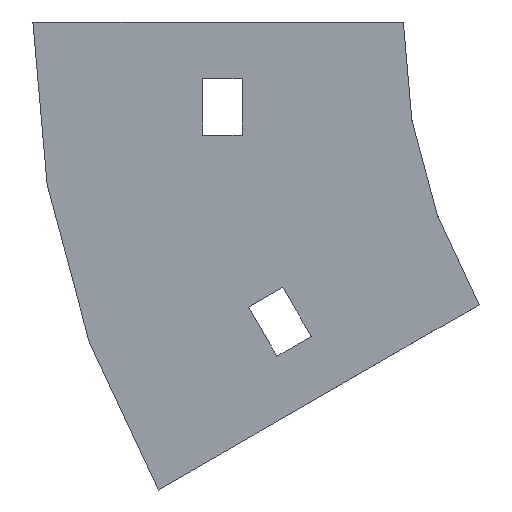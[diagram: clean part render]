
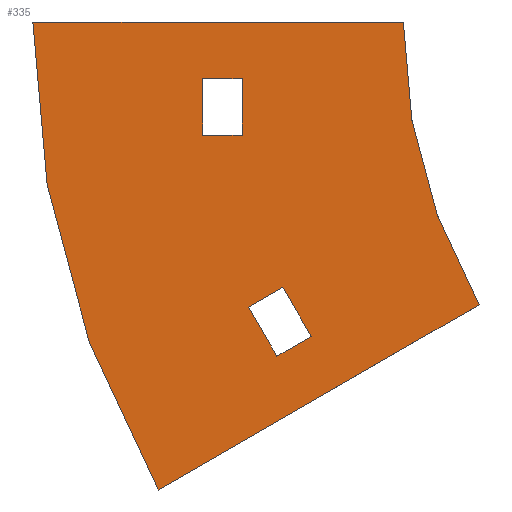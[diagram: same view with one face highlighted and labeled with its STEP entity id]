
A CAD part, left-side view. The second image highlights one B-rep face of the part: STEP entity #335.
In plain terms, the highlighted planar face has unit normal (-1, 0, 0).
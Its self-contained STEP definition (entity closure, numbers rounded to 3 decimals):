
#2 = CARTESIAN_POINT ( 'NONE',  ( -152., 28.5, -10. ) ) ;
#4 = CARTESIAN_POINT ( 'NONE',  ( -152., 28.5, -20. ) ) ;
#38 = DIRECTION ( 'NONE',  ( 0., 0., 1. ) ) ;
#39 = AXIS2_PLACEMENT_3D ( 'NONE', #807, #284, #370 ) ;
#41 = CIRCLE ( 'NONE', #691, 165.5 ) ;
#55 = DIRECTION ( 'NONE',  ( 0., -1., 0. ) ) ;
#64 = VERTEX_POINT ( 'NONE', #975 ) ;
#83 = VECTOR ( 'NONE', #724, 1000. ) ;
#84 = CARTESIAN_POINT ( 'NONE',  ( -152., 22.346, -59.09 ) ) ;
#95 = EDGE_CURVE ( 'NONE', #847, #64, #627, .T. ) ;
#111 = DIRECTION ( 'NONE',  ( 0., -0.5, -0.866 ) ) ;
#127 = ORIENTED_EDGE ( 'NONE', *, *, #379, .F. ) ;
#129 = VERTEX_POINT ( 'NONE', #270 ) ;
#131 = EDGE_CURVE ( 'NONE', #613, #847, #906, .T. ) ;
#133 = VERTEX_POINT ( 'NONE', #1064 ) ;
#147 = DIRECTION ( 'NONE',  ( 0., 0., 1. ) ) ;
#158 = VECTOR ( 'NONE', #55, 1000. ) ;
#167 = PLANE ( 'NONE',  #39 ) ;
#173 = FACE_OUTER_BOUND ( 'NONE', #750, .T. ) ;
#174 = VECTOR ( 'NONE', #926, 1000. ) ;
#183 = LINE ( 'NONE', #801, #273 ) ;
#205 = LINE ( 'NONE', #837, #673 ) ;
#206 = LINE ( 'NONE', #1104, #390 ) ;
#207 = VERTEX_POINT ( 'NONE', #817 ) ;
#218 = EDGE_CURVE ( 'NONE', #395, #947, #913, .T. ) ;
#230 = ORIENTED_EDGE ( 'NONE', *, *, #218, .F. ) ;
#270 = CARTESIAN_POINT ( 'NONE',  ( -152., 16.284, -55.59 ) ) ;
#273 = VECTOR ( 'NONE', #618, 1000. ) ;
#284 = DIRECTION ( 'NONE',  ( -1., 0., 0. ) ) ;
#307 = VERTEX_POINT ( 'NONE', #985 ) ;
#335 = ADVANCED_FACE ( 'NONE', ( #979, #173, #1146 ), #167, .T. ) ;
#363 = DIRECTION ( 'NONE',  ( 0., 0., -1. ) ) ;
#370 = DIRECTION ( 'NONE',  ( 0., 0., 1. ) ) ;
#379 = EDGE_CURVE ( 'NONE', #1112, #1126, #531, .T. ) ;
#390 = VECTOR ( 'NONE', #569, 1000. ) ;
#395 = VERTEX_POINT ( 'NONE', #1099 ) ;
#406 = CARTESIAN_POINT ( 'NONE',  ( -152., 65.5, 0. ) ) ;
#407 = LINE ( 'NONE', #1016, #158 ) ;
#416 = DIRECTION ( 'NONE',  ( 1., 0., 0. ) ) ;
#443 = CARTESIAN_POINT ( 'NONE',  ( -152., -13.397, -50. ) ) ;
#447 = EDGE_CURVE ( 'NONE', #307, #613, #583, .T. ) ;
#450 = CARTESIAN_POINT ( 'NONE',  ( -152., 43.327, -82.75 ) ) ;
#482 = CARTESIAN_POINT ( 'NONE',  ( -152., 22.346, -59.09 ) ) ;
#490 = VERTEX_POINT ( 'NONE', #406 ) ;
#506 = CARTESIAN_POINT ( 'NONE',  ( -152., -100., 0. ) ) ;
#531 = LINE ( 'NONE', #443, #174 ) ;
#559 = AXIS2_PLACEMENT_3D ( 'NONE', #775, #963, #147 ) ;
#562 = EDGE_CURVE ( 'NONE', #133, #1112, #654, .T. ) ;
#567 = ORIENTED_EDGE ( 'NONE', *, *, #912, .F. ) ;
#569 = DIRECTION ( 'NONE',  ( 0., 0.866, -0.5 ) ) ;
#576 = ORIENTED_EDGE ( 'NONE', *, *, #95, .T. ) ;
#583 = LINE ( 'NONE', #1111, #631 ) ;
#600 = ORIENTED_EDGE ( 'NONE', *, *, #844, .F. ) ;
#613 = VERTEX_POINT ( 'NONE', #777 ) ;
#618 = DIRECTION ( 'NONE',  ( 0., -0.866, 0.5 ) ) ;
#627 = LINE ( 'NONE', #1080, #83 ) ;
#630 = EDGE_CURVE ( 'NONE', #64, #307, #205, .T. ) ;
#631 = VECTOR ( 'NONE', #678, 1000. ) ;
#636 = EDGE_CURVE ( 'NONE', #490, #133, #407, .T. ) ;
#654 = CIRCLE ( 'NONE', #559, 100. ) ;
#673 = VECTOR ( 'NONE', #38, 1000. ) ;
#678 = DIRECTION ( 'NONE',  ( 0., -1., 0. ) ) ;
#691 = AXIS2_PLACEMENT_3D ( 'NONE', #506, #416, #776 ) ;
#695 = CARTESIAN_POINT ( 'NONE',  ( -152., 16.284, -55.59 ) ) ;
#724 = DIRECTION ( 'NONE',  ( 0., 1., 0. ) ) ;
#726 = VECTOR ( 'NONE', #363, 1000. ) ;
#750 = EDGE_LOOP ( 'NONE', ( #1134, #1030, #1100, #127 ) ) ;
#757 = ORIENTED_EDGE ( 'NONE', *, *, #630, .T. ) ;
#775 = CARTESIAN_POINT ( 'NONE',  ( -152., -100., 0. ) ) ;
#776 = DIRECTION ( 'NONE',  ( 0., 0., 1. ) ) ;
#777 = CARTESIAN_POINT ( 'NONE',  ( -152., 28.5, -10. ) ) ;
#801 = CARTESIAN_POINT ( 'NONE',  ( -152., 22.346, -59.09 ) ) ;
#807 = CARTESIAN_POINT ( 'NONE',  ( -152., -100., 0. ) ) ;
#817 = CARTESIAN_POINT ( 'NONE',  ( -152., 21.284, -46.929 ) ) ;
#821 = VECTOR ( 'NONE', #111, 1000. ) ;
#837 = CARTESIAN_POINT ( 'NONE',  ( -152., 35.5, -10. ) ) ;
#841 = VECTOR ( 'NONE', #862, 1000. ) ;
#844 = EDGE_CURVE ( 'NONE', #947, #129, #183, .T. ) ;
#847 = VERTEX_POINT ( 'NONE', #4 ) ;
#862 = DIRECTION ( 'NONE',  ( 0., 0.5, 0.866 ) ) ;
#906 = LINE ( 'NONE', #2, #726 ) ;
#912 = EDGE_CURVE ( 'NONE', #207, #395, #206, .T. ) ;
#913 = LINE ( 'NONE', #84, #821 ) ;
#919 = ORIENTED_EDGE ( 'NONE', *, *, #447, .T. ) ;
#924 = EDGE_LOOP ( 'NONE', ( #1010, #600, #230, #567 ) ) ;
#926 = DIRECTION ( 'NONE',  ( 0., 0.866, -0.5 ) ) ;
#947 = VERTEX_POINT ( 'NONE', #482 ) ;
#958 = ORIENTED_EDGE ( 'NONE', *, *, #131, .T. ) ;
#963 = DIRECTION ( 'NONE',  ( -1., 0., 0. ) ) ;
#975 = CARTESIAN_POINT ( 'NONE',  ( -152., 35.5, -20. ) ) ;
#979 = FACE_BOUND ( 'NONE', #1093, .T. ) ;
#985 = CARTESIAN_POINT ( 'NONE',  ( -152., 35.5, -10. ) ) ;
#1000 = EDGE_CURVE ( 'NONE', #1126, #490, #41, .T. ) ;
#1009 = EDGE_CURVE ( 'NONE', #129, #207, #1121, .T. ) ;
#1010 = ORIENTED_EDGE ( 'NONE', *, *, #1009, .F. ) ;
#1016 = CARTESIAN_POINT ( 'NONE',  ( -152., 65.5, 0. ) ) ;
#1030 = ORIENTED_EDGE ( 'NONE', *, *, #636, .F. ) ;
#1064 = CARTESIAN_POINT ( 'NONE',  ( -152., 0., 0. ) ) ;
#1072 = CARTESIAN_POINT ( 'NONE',  ( -152., -13.397, -50. ) ) ;
#1080 = CARTESIAN_POINT ( 'NONE',  ( -152., 35.5, -20. ) ) ;
#1093 = EDGE_LOOP ( 'NONE', ( #919, #958, #576, #757 ) ) ;
#1099 = CARTESIAN_POINT ( 'NONE',  ( -152., 27.346, -50.429 ) ) ;
#1100 = ORIENTED_EDGE ( 'NONE', *, *, #1000, .F. ) ;
#1104 = CARTESIAN_POINT ( 'NONE',  ( -152., 27.346, -50.429 ) ) ;
#1111 = CARTESIAN_POINT ( 'NONE',  ( -152., 35.5, -10. ) ) ;
#1112 = VERTEX_POINT ( 'NONE', #1072 ) ;
#1121 = LINE ( 'NONE', #695, #841 ) ;
#1126 = VERTEX_POINT ( 'NONE', #450 ) ;
#1134 = ORIENTED_EDGE ( 'NONE', *, *, #562, .F. ) ;
#1146 = FACE_BOUND ( 'NONE', #924, .T. ) ;
